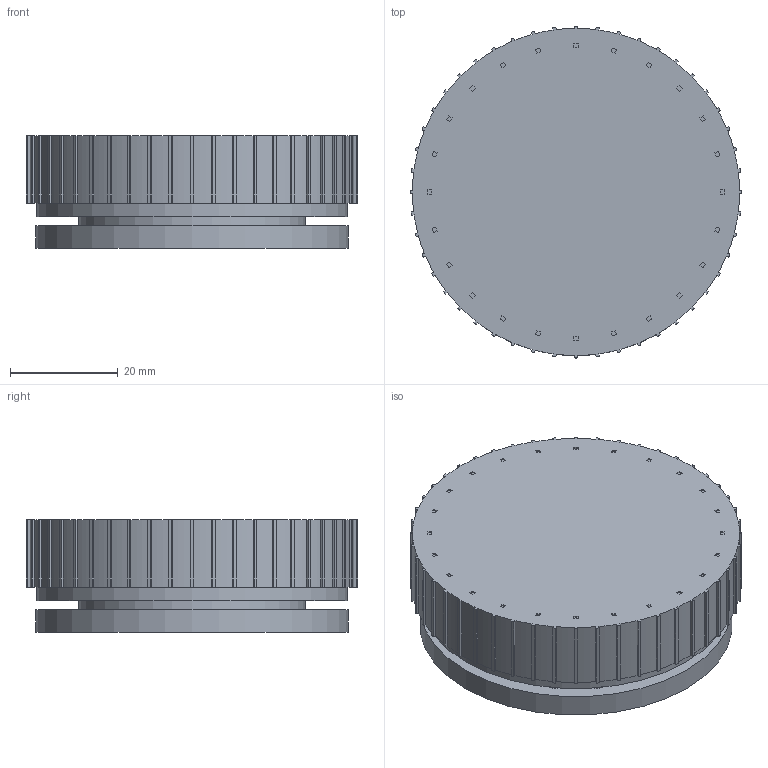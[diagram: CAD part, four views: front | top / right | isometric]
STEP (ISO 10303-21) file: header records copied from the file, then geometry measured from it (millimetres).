
FILE_DESCRIPTION(('Open CASCADE Model'),'2;1');
FILE_NAME('Open CASCADE Shape Model','2026-11-18T14:54:27',('Author'),( 'Open CASCADE'),'Open CASCADE STEP processor 7.9','Open CASCADE 7.9' ,'Unknown');
FILE_SCHEMA(('AUTOMOTIVE_DESIGN { 1 0 10303 214 1 1 1 1 }'));
Length unit declared in the file: millimetre
Products named in the file (55): V3_Assembled; PCB; Cell; PCB_Fasteners; Electronic_U1; Electronic_BT1; Electronic_C4; Electronic_C9; Electronic_C15; Electronic_C5; Electronic_C8; Electronic_C10; Electronic_C16; Electronic_C18; Electronic_J_DEBUG; Electronic_R4; Electronic_U2; Electronic_C6; Electronic_R1; Electronic_R2; Electronic_R3; Electronic_X1; Electronic_C1; Electronic_C2; Electronic_X2; Electronic_C11; Electronic_C12; Electronic_L1; Electronic_L2; Electronic_C3; Electronic_ANT1; Bearing_6808; Magnet; Cap_circular; Base_V3_Discs; Attachment_Disc_01; Attachment_Disc_02; Attachment_Disc_03; Attachment_Disc_04; Attachment_Disc_05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
Assembly tree (54 placements, depth 2):
  V3_Assembled
    PCB
    Cell
    PCB_Fasteners
    Electronic_U1
    Electronic_BT1
    Electronic_C4
    Electronic_C9
    Electronic_C15
    Electronic_C5
    Electronic_C8
    Electronic_C10
    Electronic_C16
    Electronic_C18
    Electronic_J_DEBUG
    Electronic_R4
    Electronic_U2
    Electronic_C6
    Electronic_R1
    Electronic_R2
    Electronic_R3
    Electronic_X1
    Electronic_C1
    Electronic_C2
    Electronic_X2
    Electronic_C11
    Electronic_C12
    Electronic_L1
    Electronic_L2
    Electronic_C3
    Electronic_ANT1
    Bearing_6808
    Magnet
    Cap_circular
    Base_V3_Discs
    Attachment_Disc_01
    Attachment_Disc_02
    Attachment_Disc_03
    Attachment_Disc_04
    Attachment_Disc_05
    Attachment_Disc_06
    Attachment_Disc_07
    Attachment_Disc_08
    Attachment_Disc_09
    Attachment_Disc_10
    Attachment_Disc_11
    Attachment_Disc_12
    Attachment_Disc_13
    Attachment_Disc_14
    Attachment_Disc_15
    Attachment_Disc_16
    Attachment_Disc_17
    Attachment_Disc_18
    Attachment_Disc_19
    Attachment_Disc_20
Bounding box: 61.6 x 61.6 x 20.9 mm (x, y, z)
Volume: 33309.8 mm3; surface area: 42592.6 mm2
Topology: 254 solids, 254 shells, 11447 faces, 30164 edges, 19722 vertices
Faces by surface type: plane 6663, bspline 2964, cylinder 1433, sphere 211, extrusion 76, cone 52, torus 48
Full cylindrical faces by diameter (mm): 0.36 x21, 1.6 x4, 1.96 x18, 2.2 x4, 3.2 x4, 3.8 x2, 6 x21, 6.4 x20, 22.2 x2, 23.2 x1, 23.3 x1, 24.5 x1, 36.5 x1, 37.3 x1, 40 x1, 40.05 x1, 42 x1, 43.9 x2, 43.96 x2, 44.2 x2, 48.04 x2, 48.1 x2, 50 x1, 50.7 x4, 51.4 x2, 51.46 x2, 51.95 x1, 52 x1, 57.6 x1, 58 x1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
Entity records: 835795 total; most frequent: CARTESIAN_POINT 276058, DIRECTION 86117, VECTOR 62455, LINE 62379, ORIENTED_EDGE 59906, PCURVE 59906, DEFINITIONAL_REPRESENTATION 59906, EDGE_CURVE 29953
